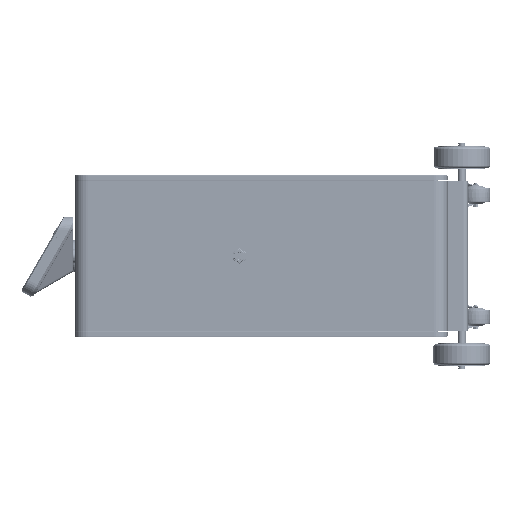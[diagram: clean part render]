
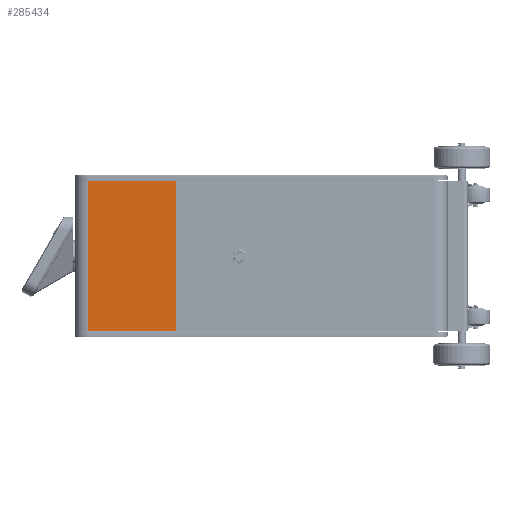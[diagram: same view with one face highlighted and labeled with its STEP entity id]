
A CAD part, left-side view. The second image highlights one B-rep face of the part: STEP entity #285434.
In plain terms, the highlighted planar face has unit normal (-1, 0, 0).
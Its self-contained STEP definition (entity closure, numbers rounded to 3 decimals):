
#8267 = VERTEX_POINT ( 'NONE', #260548 ) ;
#13337 = DIRECTION ( 'NONE',  ( 0., 0., 1. ) ) ;
#15397 = VECTOR ( 'NONE', #314447, 1000. ) ;
#42877 = EDGE_CURVE ( 'NONE', #200426, #92263, #118834, .T. ) ;
#61793 = EDGE_CURVE ( 'NONE', #200426, #8267, #131235, .T. ) ;
#64395 = ORIENTED_EDGE ( 'NONE', *, *, #123988, .T. ) ;
#66571 = DIRECTION ( 'NONE',  ( 0., 0., -1. ) ) ;
#69071 = CARTESIAN_POINT ( 'NONE',  ( -155.808, -92.286, 479.05 ) ) ;
#70465 = CARTESIAN_POINT ( 'NONE',  ( -155.808, 672.714, 150.25 ) ) ;
#72929 = ORIENTED_EDGE ( 'NONE', *, *, #61793, .F. ) ;
#75526 = VECTOR ( 'NONE', #66571, 1000. ) ;
#89182 = DIRECTION ( 'NONE',  ( 0., 0., 1. ) ) ;
#92263 = VERTEX_POINT ( 'NONE', #70465 ) ;
#93993 = ORIENTED_EDGE ( 'NONE', *, *, #224261, .T. ) ;
#118834 = LINE ( 'NONE', #225262, #75526 ) ;
#123988 = EDGE_CURVE ( 'NONE', #255600, #8267, #279159, .T. ) ;
#127647 = EDGE_LOOP ( 'NONE', ( #93993, #64395, #72929, #332276 ) ) ;
#131235 = LINE ( 'NONE', #237657, #15397 ) ;
#157674 = VECTOR ( 'NONE', #89182, 1000. ) ;
#190503 = VECTOR ( 'NONE', #322839, 1000. ) ;
#192026 = CARTESIAN_POINT ( 'NONE',  ( -155.808, 672.714, 150.25 ) ) ;
#200426 = VERTEX_POINT ( 'NONE', #340946 ) ;
#213860 = AXIS2_PLACEMENT_3D ( 'NONE', #69071, #334125, #13337 ) ;
#216473 = LINE ( 'NONE', #192026, #190503 ) ;
#224261 = EDGE_CURVE ( 'NONE', #92263, #255600, #216473, .T. ) ;
#225151 = CARTESIAN_POINT ( 'NONE',  ( -155.808, 477.714, 479.05 ) ) ;
#225262 = CARTESIAN_POINT ( 'NONE',  ( -155.808, 672.714, 479.05 ) ) ;
#237657 = CARTESIAN_POINT ( 'NONE',  ( -155.808, 672.714, 480.25 ) ) ;
#246716 = CARTESIAN_POINT ( 'NONE',  ( -155.808, 477.714, 150.25 ) ) ;
#255600 = VERTEX_POINT ( 'NONE', #246716 ) ;
#260548 = CARTESIAN_POINT ( 'NONE',  ( -155.808, 477.714, 480.25 ) ) ;
#274904 = FACE_OUTER_BOUND ( 'NONE', #127647, .T. ) ;
#279159 = LINE ( 'NONE', #225151, #157674 ) ;
#285434 = ADVANCED_FACE ( 'NONE', ( #274904 ), #328965, .T. ) ;
#314447 = DIRECTION ( 'NONE',  ( 0., -1., 0. ) ) ;
#322839 = DIRECTION ( 'NONE',  ( 0., -1., 0. ) ) ;
#328965 = PLANE ( 'NONE',  #213860 ) ;
#332276 = ORIENTED_EDGE ( 'NONE', *, *, #42877, .T. ) ;
#334125 = DIRECTION ( 'NONE',  ( -1., 0., 0. ) ) ;
#340946 = CARTESIAN_POINT ( 'NONE',  ( -155.808, 672.714, 480.25 ) ) ;
